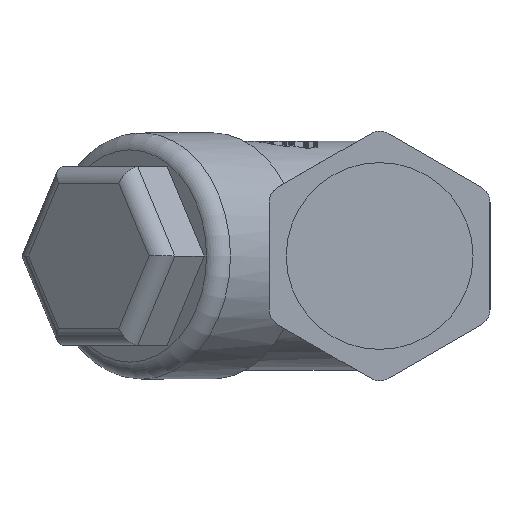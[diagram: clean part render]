
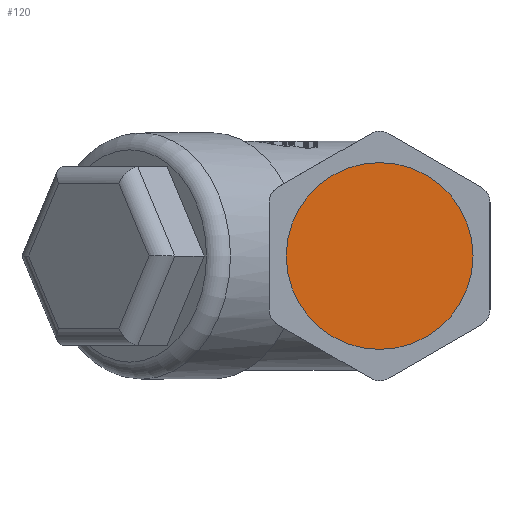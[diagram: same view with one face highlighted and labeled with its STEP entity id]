
A CAD part, left-side view. The second image highlights one B-rep face of the part: STEP entity #120.
In plain terms, the highlighted planar face has unit normal (-1, 0, 0).
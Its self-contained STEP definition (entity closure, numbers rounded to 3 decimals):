
#120=ADVANCED_FACE('',(#8051),#8053,.F.);
#8051=FACE_BOUND('',#8052,.T.);
#8052=EDGE_LOOP('',(#15873));
#8053=PLANE('',#8054);
#8054=AXIS2_PLACEMENT_3D('',#8055,#8056,#8057);
#8055=CARTESIAN_POINT('',(159.309,58.497,0.));
#8056=DIRECTION('',(1.,0.,0.));
#8057=DIRECTION('',(0.,0.,-1.));
#15873=ORIENTED_EDGE('',*,*,#21021,.F.);
#21021=EDGE_CURVE('',#24421,#24421,#24422,.T.);
#24421=VERTEX_POINT('',#31622);
#24422=CIRCLE('',#31623,11.);
#31622=CARTESIAN_POINT('',(159.309,47.497,0.));
#31623=AXIS2_PLACEMENT_3D('',#31624,#31625,#31626);
#31624=CARTESIAN_POINT('',(159.309,58.497,0.));
#31625=DIRECTION('',(1.,0.,0.));
#31626=DIRECTION('',(0.,-1.,0.));
